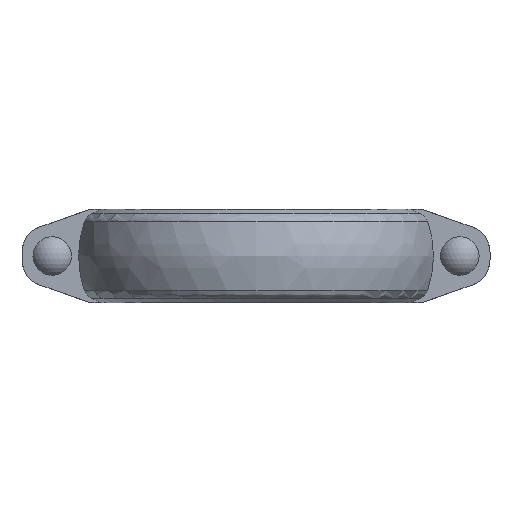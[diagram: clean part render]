
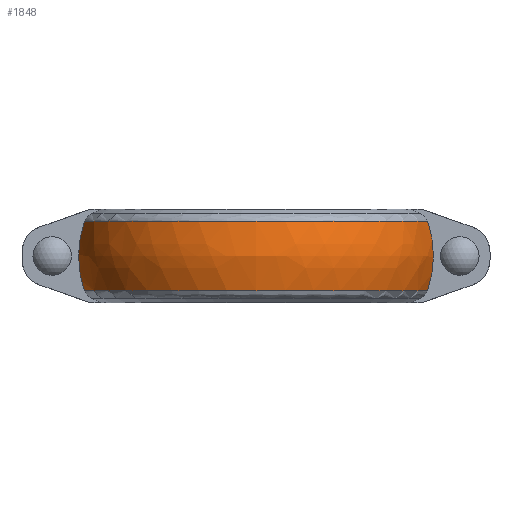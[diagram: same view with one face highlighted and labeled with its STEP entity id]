
A CAD part, front view. The second image highlights one B-rep face of the part: STEP entity #1848.
In plain terms, the highlighted free-form (B-spline) face has degree [2, 2] with [3, 5] control points.
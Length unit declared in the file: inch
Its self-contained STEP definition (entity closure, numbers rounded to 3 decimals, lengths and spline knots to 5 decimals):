
#27=(
BOUNDED_SURFACE()
B_SPLINE_SURFACE(2,2,((#3297,#3298,#3299,#3300,#3301),(#3302,#3303,#3304,
#3305,#3306),(#3307,#3308,#3309,#3310,#3311)),.UNSPECIFIED.,.F.,.F.,.F.)
B_SPLINE_SURFACE_WITH_KNOTS((3,3),(3,2,3),(-0.32923,0.32923),
(0.24036,1.5708,2.90124),.UNSPECIFIED.)
GEOMETRIC_REPRESENTATION_ITEM()
RATIONAL_B_SPLINE_SURFACE(((1.,0.787,1.,0.787,1.),
(0.946,0.745,0.946,0.745,
0.946),(1.,0.787,1.,0.787,1.)))
REPRESENTATION_ITEM('')
SURFACE()
);
#29=B_SPLINE_CURVE_WITH_KNOTS('',3,(#3038,#3039,#3040,#3041,#3042,#3043,
#3044,#3045,#3046,#3047,#3048,#3049,#3050,#3051,#3052,#3053,#3054,#3055),
 .UNSPECIFIED.,.F.,.F.,(4,2,2,2,2,2,2,2,4),(13.60011,13.87981,
14.57129,15.26277,15.95424,16.64572,17.3372,
18.02868,18.30838),.UNSPECIFIED.);
#35=B_SPLINE_CURVE_WITH_KNOTS('',3,(#3158,#3159,#3160,#3161,#3162,#3163,
#3164,#3165,#3166,#3167,#3168,#3169,#3170,#3171,#3172,#3173,#3174,#3175),
 .UNSPECIFIED.,.F.,.F.,(4,2,2,2,2,2,2,2,4),(45.5086,45.7883,
46.47978,47.17125,47.86273,48.55421,49.24569,
49.93717,50.21686),.UNSPECIFIED.);
#232=FACE_OUTER_BOUND('',#341,.T.);
#341=EDGE_LOOP('',(#1633,#1634,#1635,#1636));
#692=CIRCLE('',#2068,4.96387);
#697=CIRCLE('',#2079,4.96387);
#849=VERTEX_POINT('',#3024);
#850=VERTEX_POINT('',#3037);
#861=VERTEX_POINT('',#3144);
#862=VERTEX_POINT('',#3157);
#1084=EDGE_CURVE('',#850,#849,#29,.T.);
#1102=EDGE_CURVE('',#862,#861,#35,.T.);
#1120=EDGE_CURVE('',#862,#849,#692,.T.);
#1126=EDGE_CURVE('',#861,#850,#697,.T.);
#1633=ORIENTED_EDGE('',*,*,#1084,.T.);
#1634=ORIENTED_EDGE('',*,*,#1120,.F.);
#1635=ORIENTED_EDGE('',*,*,#1102,.T.);
#1636=ORIENTED_EDGE('',*,*,#1126,.T.);
#1848=ADVANCED_FACE('',(#232),#27,.F.);
#2068=AXIS2_PLACEMENT_3D('',#3282,#2563,#2564);
#2079=AXIS2_PLACEMENT_3D('',#3296,#2586,#2587);
#2563=DIRECTION('center_axis',(0.,0.,-1.));
#2564=DIRECTION('ref_axis',(1.,0.,0.));
#2586=DIRECTION('center_axis',(0.,0.,-1.));
#2587=DIRECTION('ref_axis',(1.,0.,0.));
#3024=CARTESIAN_POINT('',(4.81161,1.22,-0.96995));
#3037=CARTESIAN_POINT('',(4.81161,1.22,0.96995));
#3038=CARTESIAN_POINT('Ctrl Pts',(4.81161,1.22,0.96995));
#3039=CARTESIAN_POINT('Ctrl Pts',(4.82438,1.22,0.93372));
#3040=CARTESIAN_POINT('Ctrl Pts',(4.83659,1.22,0.8968));
#3041=CARTESIAN_POINT('Ctrl Pts',(4.87671,1.22,0.76669));
#3042=CARTESIAN_POINT('Ctrl Pts',(4.90118,1.22,0.67067));
#3043=CARTESIAN_POINT('Ctrl Pts',(4.94012,1.22,0.47667));
#3044=CARTESIAN_POINT('Ctrl Pts',(4.95459,1.22,0.37865));
#3045=CARTESIAN_POINT('Ctrl Pts',(4.97337,1.22,0.18568));
#3046=CARTESIAN_POINT('Ctrl Pts',(4.97767,1.22,0.09075));
#3047=CARTESIAN_POINT('Ctrl Pts',(4.97767,1.22,-0.09075));
#3048=CARTESIAN_POINT('Ctrl Pts',(4.97337,1.22,-0.18568));
#3049=CARTESIAN_POINT('Ctrl Pts',(4.95459,1.22,-0.37865));
#3050=CARTESIAN_POINT('Ctrl Pts',(4.94012,1.22,-0.47667));
#3051=CARTESIAN_POINT('Ctrl Pts',(4.90118,1.22,-0.67067));
#3052=CARTESIAN_POINT('Ctrl Pts',(4.87671,1.22,-0.76669));
#3053=CARTESIAN_POINT('Ctrl Pts',(4.83659,1.22,-0.8968));
#3054=CARTESIAN_POINT('Ctrl Pts',(4.82438,1.22,-0.93372));
#3055=CARTESIAN_POINT('Ctrl Pts',(4.81161,1.22,-0.96995));
#3144=CARTESIAN_POINT('',(-4.81161,1.22,0.96995));
#3157=CARTESIAN_POINT('',(-4.81161,1.22,-0.96995));
#3158=CARTESIAN_POINT('Ctrl Pts',(-4.81161,1.22,-0.96995));
#3159=CARTESIAN_POINT('Ctrl Pts',(-4.82438,1.22,-0.93372));
#3160=CARTESIAN_POINT('Ctrl Pts',(-4.83659,1.22,-0.8968));
#3161=CARTESIAN_POINT('Ctrl Pts',(-4.87671,1.22,-0.76669));
#3162=CARTESIAN_POINT('Ctrl Pts',(-4.90118,1.22,-0.67067));
#3163=CARTESIAN_POINT('Ctrl Pts',(-4.94012,1.22,-0.47667));
#3164=CARTESIAN_POINT('Ctrl Pts',(-4.95459,1.22,-0.37865));
#3165=CARTESIAN_POINT('Ctrl Pts',(-4.97337,1.22,-0.18568));
#3166=CARTESIAN_POINT('Ctrl Pts',(-4.97767,1.22,-0.09075));
#3167=CARTESIAN_POINT('Ctrl Pts',(-4.97767,1.22,0.09075));
#3168=CARTESIAN_POINT('Ctrl Pts',(-4.97337,1.22,0.18568));
#3169=CARTESIAN_POINT('Ctrl Pts',(-4.95459,1.22,0.37865));
#3170=CARTESIAN_POINT('Ctrl Pts',(-4.94012,1.22,0.47667));
#3171=CARTESIAN_POINT('Ctrl Pts',(-4.90118,1.22,0.67067));
#3172=CARTESIAN_POINT('Ctrl Pts',(-4.87671,1.22,0.76669));
#3173=CARTESIAN_POINT('Ctrl Pts',(-4.83659,1.22,0.8968));
#3174=CARTESIAN_POINT('Ctrl Pts',(-4.82438,1.22,0.93372));
#3175=CARTESIAN_POINT('Ctrl Pts',(-4.81161,1.22,0.96995));
#3282=CARTESIAN_POINT('Origin',(0.,0.,-0.96995));
#3296=CARTESIAN_POINT('Origin',(0.,0.,0.96995));
#3297=CARTESIAN_POINT('Ctrl Pts',(-4.82118,1.18164,0.96995));
#3298=CARTESIAN_POINT('Ctrl Pts',(-3.89417,4.96387,0.96995));
#3299=CARTESIAN_POINT('Ctrl Pts',(0.,4.96387,0.96995));
#3300=CARTESIAN_POINT('Ctrl Pts',(3.89417,4.96387,0.96995));
#3301=CARTESIAN_POINT('Ctrl Pts',(4.82118,1.18164,0.96995));
#3302=CARTESIAN_POINT('Ctrl Pts',(-5.14305,1.26053,0.));
#3303=CARTESIAN_POINT('Ctrl Pts',(-4.15416,5.29527,0.));
#3304=CARTESIAN_POINT('Ctrl Pts',(0.,5.29527,0.));
#3305=CARTESIAN_POINT('Ctrl Pts',(4.15416,5.29527,0.));
#3306=CARTESIAN_POINT('Ctrl Pts',(5.14305,1.26053,0.));
#3307=CARTESIAN_POINT('Ctrl Pts',(-4.82118,1.18164,-0.96995));
#3308=CARTESIAN_POINT('Ctrl Pts',(-3.89417,4.96387,-0.96995));
#3309=CARTESIAN_POINT('Ctrl Pts',(0.,4.96387,-0.96995));
#3310=CARTESIAN_POINT('Ctrl Pts',(3.89417,4.96387,-0.96995));
#3311=CARTESIAN_POINT('Ctrl Pts',(4.82118,1.18164,-0.96995));
